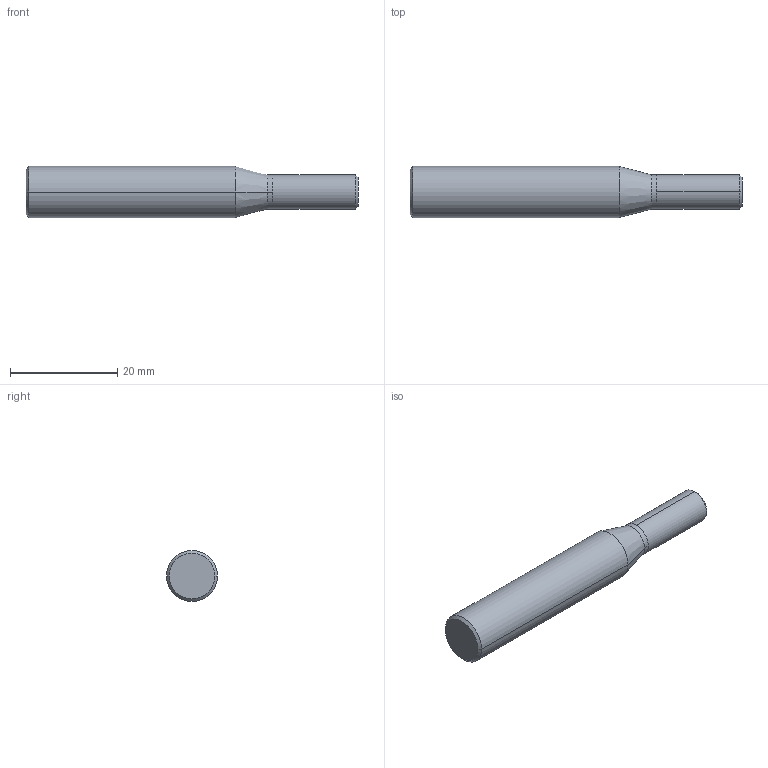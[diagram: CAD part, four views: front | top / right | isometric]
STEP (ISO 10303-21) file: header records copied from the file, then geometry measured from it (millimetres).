
FILE_DESCRIPTION (( 'STEP AP214' ), '1' );
FILE_NAME ('E2170016.STEP', '2018-08-01T03:23:33', ( '' ), ( '' ), 'SwSTEP 2.0', 'SolidWorks 2014', '' );
FILE_SCHEMA (( 'AUTOMOTIVE_DESIGN' ));
Length unit declared in the file: millimetre
Products named in the file (1): E2170016
Bounding box: 61.91 x 9.53 x 9.53 mm (x, y, z)
Volume: 3612.5 mm3; surface area: 1810.9 mm2
Topology: 2 solids, 2 shells, 16 faces, 28 edges, 16 vertices
Faces by surface type: cylinder 6, cone 6, plane 4
Entity records: 493 total; most frequent: DIRECTION 78, CARTESIAN_POINT 61, ORIENTED_EDGE 56, AXIS2_PLACEMENT_3D 33, EDGE_CURVE 28, EDGE_LOOP 16, CIRCLE 16, VERTEX_POINT 16
